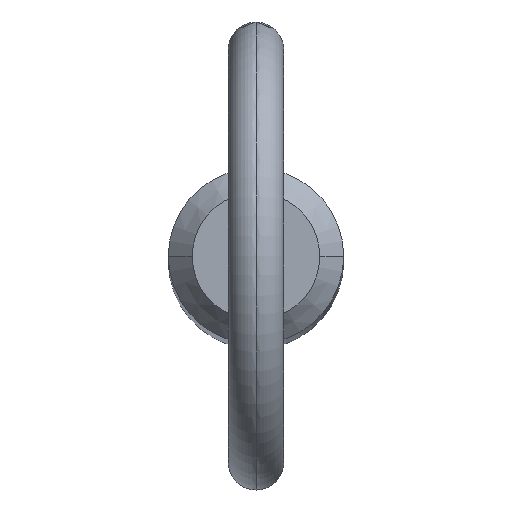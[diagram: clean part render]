
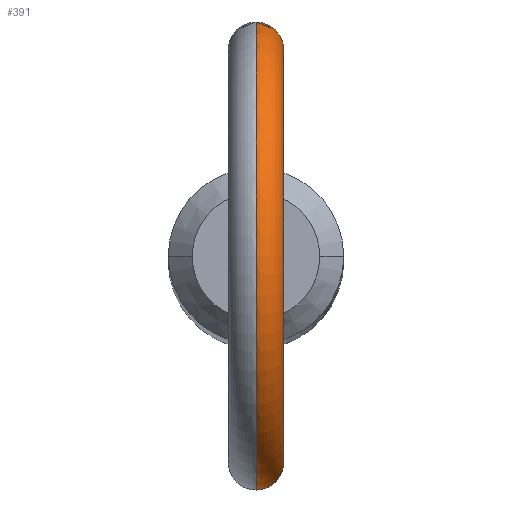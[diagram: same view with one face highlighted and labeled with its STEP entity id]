
A CAD part, top view. The second image highlights one B-rep face of the part: STEP entity #391.
In plain terms, the highlighted toroidal (fillet/blend) face has major radius 11.2 mm and minor radius 1.5 mm.
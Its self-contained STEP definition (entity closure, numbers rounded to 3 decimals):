
#13 = CARTESIAN_POINT ( 'NONE',  ( 0.409, -4.743, 143.878 ) ) ;
#14 = CARTESIAN_POINT ( 'NONE',  ( 0., 0., 152.4 ) ) ;
#21 = CARTESIAN_POINT ( 'NONE',  ( 1.292, 4.582, 143.044 ) ) ;
#25 = CARTESIAN_POINT ( 'NONE',  ( 0.411, 4.743, 140.677 ) ) ;
#28 = EDGE_CURVE ( 'NONE', #309, #524, #392, .T. ) ;
#29 = CARTESIAN_POINT ( 'NONE',  ( 0.208, -4.757, 140.636 ) ) ;
#30 = DIRECTION ( 'NONE',  ( 1., 0., 0. ) ) ;
#33 = B_SPLINE_CURVE_WITH_KNOTS ( 'NONE', 3,
 ( #68, #112, #301, #25, #139, #303, #223, #222, #218, #382, #509, #511, #69, #341, #467, #21, #387, #512, #148, #424, #259, #506, #143, #179 ),
 .UNSPECIFIED., .F., .F.,
 ( 4, 2, 2, 2, 2, 2, 2, 2, 2, 2, 2, 4 ),
 ( 0.001, 0.001, 0.001, 0.002, 0.002, 0.002, 0.003, 0.004, 0.004, 0.005, 0.005, 0.006 ),
 .UNSPECIFIED. ) ;
#60 = CARTESIAN_POINT ( 'NONE',  ( 1.492, -4.52, 142.348 ) ) ;
#67 = ORIENTED_EDGE ( 'NONE', *, *, #412, .T. ) ;
#68 = CARTESIAN_POINT ( 'NONE',  ( 0., 4.76, 140.626 ) ) ;
#69 = CARTESIAN_POINT ( 'NONE',  ( 1.508, 4.515, 142.037 ) ) ;
#75 = DIRECTION ( 'NONE',  ( 0., 0., -1. ) ) ;
#79 = TOROIDAL_SURFACE ( 'NONE', #170, 11.2, 1.5 ) ;
#86 = CARTESIAN_POINT ( 'NONE',  ( 0.512, -4.733, 140.708 ) ) ;
#105 = CARTESIAN_POINT ( 'NONE',  ( 1.24, -4.596, 141.26 ) ) ;
#108 = CARTESIAN_POINT ( 'NONE',  ( 1.344, -4.567, 141.439 ) ) ;
#112 = CARTESIAN_POINT ( 'NONE',  ( 0.104, 4.76, 140.626 ) ) ;
#132 = CARTESIAN_POINT ( 'NONE',  ( 0.104, -4.76, 143.948 ) ) ;
#139 = CARTESIAN_POINT ( 'NONE',  ( 0.511, 4.733, 140.708 ) ) ;
#140 = CARTESIAN_POINT ( 'NONE',  ( 0.925, -4.67, 143.539 ) ) ;
#142 = CARTESIAN_POINT ( 'NONE',  ( 1.404, -4.548, 142.753 ) ) ;
#143 = CARTESIAN_POINT ( 'NONE',  ( 0.208, 4.76, 143.948 ) ) ;
#144 = CARTESIAN_POINT ( 'NONE',  ( 1.45, -4.534, 141.728 ) ) ;
#148 = CARTESIAN_POINT ( 'NONE',  ( 0.925, 4.67, 143.54 ) ) ;
#169 = DIRECTION ( 'NONE',  ( 1., 0., 0. ) ) ;
#170 = AXIS2_PLACEMENT_3D ( 'NONE', #14, #169, #208 ) ;
#176 = CARTESIAN_POINT ( 'NONE',  ( 1.178, -4.613, 141.176 ) ) ;
#177 = ORIENTED_EDGE ( 'NONE', *, *, #508, .F. ) ;
#179 = CARTESIAN_POINT ( 'NONE',  ( 0., 4.76, 143.948 ) ) ;
#207 = CARTESIAN_POINT ( 'NONE',  ( 0.209, -4.756, 143.934 ) ) ;
#208 = DIRECTION ( 'NONE',  ( 0., 0., -1. ) ) ;
#217 = CARTESIAN_POINT ( 'NONE',  ( 0.997, -4.655, 143.464 ) ) ;
#218 = CARTESIAN_POINT ( 'NONE',  ( 1.239, 4.596, 141.259 ) ) ;
#220 = CARTESIAN_POINT ( 'NONE',  ( 1.499, -4.518, 142.037 ) ) ;
#222 = CARTESIAN_POINT ( 'NONE',  ( 1.177, 4.613, 141.175 ) ) ;
#223 = CARTESIAN_POINT ( 'NONE',  ( 0.968, 4.663, 140.949 ) ) ;
#228 = CARTESIAN_POINT ( 'NONE',  ( 0.411, -4.743, 140.677 ) ) ;
#229 = AXIS2_PLACEMENT_3D ( 'NONE', #431, #30, #75 ) ;
#230 = CIRCLE ( 'NONE', #466, 12.7 ) ;
#242 = CARTESIAN_POINT ( 'NONE',  ( 0., -4.76, 143.948 ) ) ;
#249 = CARTESIAN_POINT ( 'NONE',  ( 1.503, -4.517, 142.14 ) ) ;
#253 = CARTESIAN_POINT ( 'NONE',  ( 0., 4.76, 140.626 ) ) ;
#254 = CARTESIAN_POINT ( 'NONE',  ( 0.687, -4.711, 143.735 ) ) ;
#256 = CARTESIAN_POINT ( 'NONE',  ( 1.473, -4.526, 141.831 ) ) ;
#259 = CARTESIAN_POINT ( 'NONE',  ( 0.685, 4.711, 143.736 ) ) ;
#262 = CARTESIAN_POINT ( 'NONE',  ( 0., -4.76, 140.626 ) ) ;
#288 = VERTEX_POINT ( 'NONE', #359 ) ;
#294 = CARTESIAN_POINT ( 'NONE',  ( 1.293, -4.582, 143.042 ) ) ;
#298 = CARTESIAN_POINT ( 'NONE',  ( 0.797, -4.697, 140.829 ) ) ;
#301 = CARTESIAN_POINT ( 'NONE',  ( 0.207, 4.757, 140.636 ) ) ;
#303 = CARTESIAN_POINT ( 'NONE',  ( 0.795, 4.697, 140.828 ) ) ;
#307 = EDGE_LOOP ( 'NONE', ( #519, #67, #477, #177 ) ) ;
#309 = VERTEX_POINT ( 'NONE', #324 ) ;
#324 = CARTESIAN_POINT ( 'NONE',  ( 0., -4.76, 143.948 ) ) ;
#334 = CARTESIAN_POINT ( 'NONE',  ( 1.385, -4.554, 141.532 ) ) ;
#337 = CARTESIAN_POINT ( 'NONE',  ( 0., 0., 152.4 ) ) ;
#341 = CARTESIAN_POINT ( 'NONE',  ( 1.487, 4.522, 142.453 ) ) ;
#359 = CARTESIAN_POINT ( 'NONE',  ( 0., 4.76, 143.948 ) ) ;
#370 = CIRCLE ( 'NONE', #229, 9.7 ) ;
#373 = CARTESIAN_POINT ( 'NONE',  ( 0.506, -4.734, 143.837 ) ) ;
#381 = CARTESIAN_POINT ( 'NONE',  ( 0.97, -4.662, 140.95 ) ) ;
#382 = CARTESIAN_POINT ( 'NONE',  ( 1.343, 4.567, 141.437 ) ) ;
#383 = CARTESIAN_POINT ( 'NONE',  ( 0., -4.76, 140.626 ) ) ;
#385 = DIRECTION ( 'NONE',  ( 0., 0., -1. ) ) ;
#387 = CARTESIAN_POINT ( 'NONE',  ( 1.188, 4.611, 143.227 ) ) ;
#391 = ADVANCED_FACE ( 'NONE', ( #476 ), #79, .T. ) ;
#392 = B_SPLINE_CURVE_WITH_KNOTS ( 'NONE', 3,
 ( #242, #132, #207, #13, #373, #254, #504, #140, #217, #507, #294, #142, #425, #468, #60, #249, #220, #256, #144, #334, #108, #105, #176, #381, #298, #86, #228, #29, #474, #262 ),
 .UNSPECIFIED., .F., .F.,
 ( 4, 2, 2, 2, 2, 2, 2, 2, 2, 2, 2, 2, 2, 2, 4 ),
 ( 0.004, 0.005, 0.005, 0.005, 0.006, 0.006, 0.007, 0.007, 0.007, 0.007, 0.008, 0.008, 0.009, 0.009, 0.009 ),
 .UNSPECIFIED. ) ;
#412 = EDGE_CURVE ( 'NONE', #450, #524, #230, .T. ) ;
#420 = DIRECTION ( 'NONE',  ( 1., 0., 0. ) ) ;
#424 = CARTESIAN_POINT ( 'NONE',  ( 0.771, 4.698, 143.675 ) ) ;
#425 = CARTESIAN_POINT ( 'NONE',  ( 1.434, -4.539, 142.654 ) ) ;
#431 = CARTESIAN_POINT ( 'NONE',  ( 0., 0., 152.4 ) ) ;
#443 = EDGE_CURVE ( 'NONE', #450, #288, #33, .T. ) ;
#450 = VERTEX_POINT ( 'NONE', #253 ) ;
#466 = AXIS2_PLACEMENT_3D ( 'NONE', #337, #420, #385 ) ;
#467 = CARTESIAN_POINT ( 'NONE',  ( 1.441, 4.537, 142.659 ) ) ;
#468 = CARTESIAN_POINT ( 'NONE',  ( 1.478, -4.525, 142.452 ) ) ;
#474 = CARTESIAN_POINT ( 'NONE',  ( 0.105, -4.76, 140.626 ) ) ;
#476 = FACE_OUTER_BOUND ( 'NONE', #307, .T. ) ;
#477 = ORIENTED_EDGE ( 'NONE', *, *, #28, .F. ) ;
#504 = CARTESIAN_POINT ( 'NONE',  ( 0.77, -4.698, 143.675 ) ) ;
#506 = CARTESIAN_POINT ( 'NONE',  ( 0.415, 4.745, 143.888 ) ) ;
#507 = CARTESIAN_POINT ( 'NONE',  ( 1.19, -4.611, 143.224 ) ) ;
#508 = EDGE_CURVE ( 'NONE', #288, #309, #370, .T. ) ;
#509 = CARTESIAN_POINT ( 'NONE',  ( 1.385, 4.554, 141.53 ) ) ;
#511 = CARTESIAN_POINT ( 'NONE',  ( 1.484, 4.523, 141.828 ) ) ;
#512 = CARTESIAN_POINT ( 'NONE',  ( 0.996, 4.655, 143.466 ) ) ;
#519 = ORIENTED_EDGE ( 'NONE', *, *, #443, .F. ) ;
#524 = VERTEX_POINT ( 'NONE', #383 ) ;
